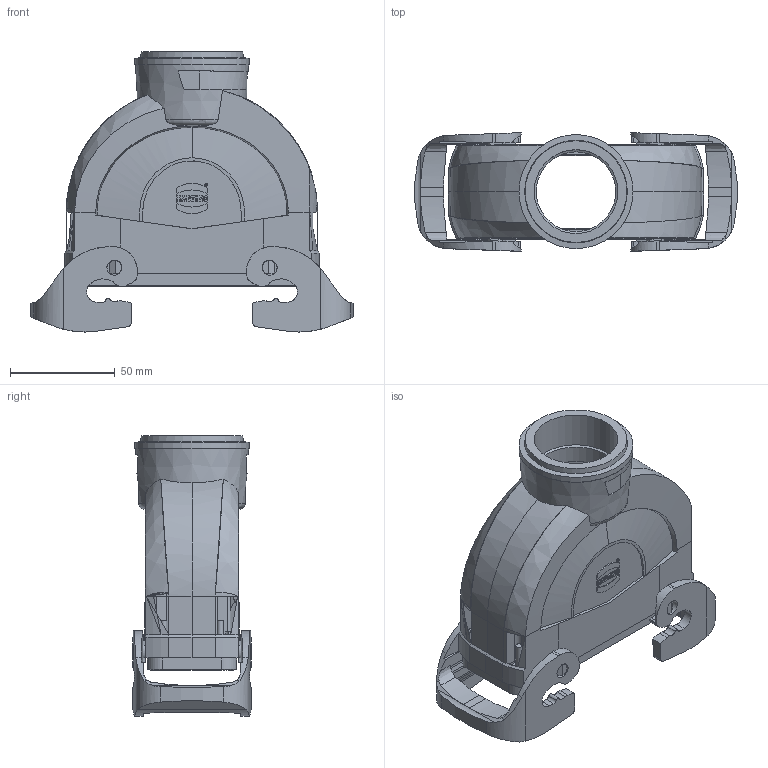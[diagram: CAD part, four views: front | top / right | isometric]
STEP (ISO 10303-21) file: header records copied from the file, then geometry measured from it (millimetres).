
FILE_DESCRIPTION(/* description */ (''),/* implementation_level */ '2;1');
FILE_NAME(/* name */ '100734632ugm000_c.stp',/* time_stamp */ '2022-03-12T05:14:36+01:00',/* author */ (''),/* organization */ (''),/* preprocessor_version */ 'ST-DEVELOPER v16.7',/* originating_system */ 'SIEMENS PLM Software NX 1911',/* authorisation */ '');
FILE_SCHEMA (('AUTOMOTIVE_DESIGN { 1 0 10303 214 3 1 1 1 }'));
Length unit declared in the file: millimetre
Products named in the file (1): 100734632ugm000_c
Bounding box: 153.67 x 56.57 x 133.59 mm (x, y, z)
Volume: 155696.8 mm3; surface area: 85263.7 mm2
Topology: 3 solids, 3 shells, 683 faces, 1934 edges, 1272 vertices
Faces by surface type: plane 406, cylinder 192, cone 36, bspline 29, extrusion 14, torus 6
Full cylindrical faces by diameter (mm): 1.006 x1, 1.477 x1, 3 x4, 3.5 x4, 7.2 x4, 38 x1, 40 x1, 54.4 x1
Entity records: 31170 total; most frequent: CARTESIAN_POINT 8808, ORIENTED_EDGE 3802, DIRECTION 3480, EDGE_CURVE 1901, VERTEX_POINT 1261, VECTOR 1164, AXIS2_PLACEMENT_3D 1158, LINE 1150
